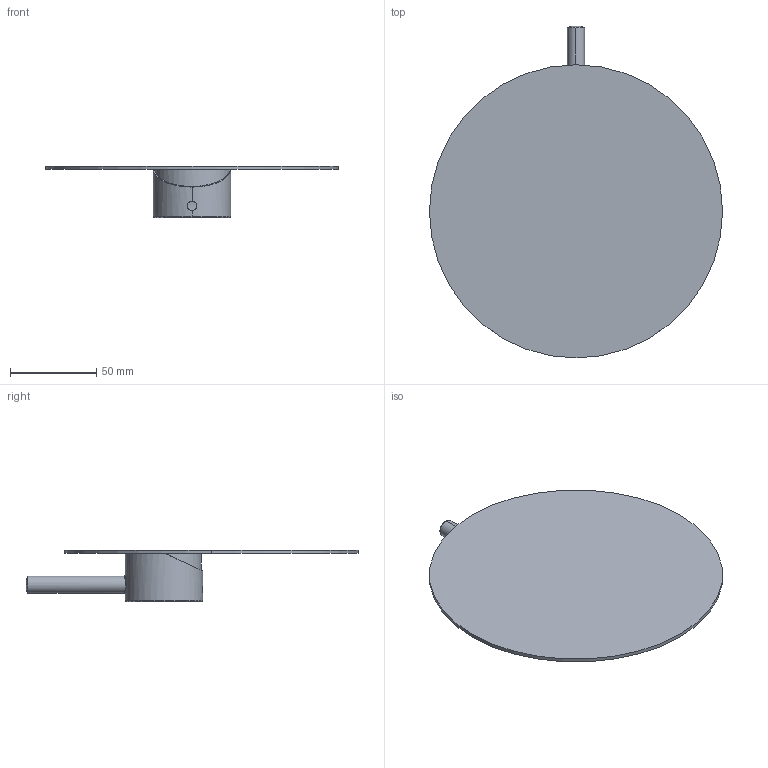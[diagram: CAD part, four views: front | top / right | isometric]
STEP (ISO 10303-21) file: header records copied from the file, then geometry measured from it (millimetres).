
FILE_DESCRIPTION (( 'STEP AP214' ), '1' );
FILE_NAME ('12218010 x architetti.STEP', '2024-11-13T16:17:56', ( '' ), ( '' ), 'SwSTEP 2.0', 'SolidWorks 2020', '' );
FILE_SCHEMA (( 'AUTOMOTIVE_DESIGN' ));
Length unit declared in the file: millimetre
Products named in the file (1): 12218010 x architetti
Bounding box: 170 x 192.5 x 30.14 mm (x, y, z)
Volume: 94042.2 mm3; surface area: 52224.4 mm2
Topology: 1 solids, 1 shells, 24 faces, 56 edges, 33 vertices
Faces by surface type: bspline 11, cylinder 10, plane 3
Entity records: 1614 total; most frequent: CARTESIAN_POINT 870, ORIENTED_EDGE 108, DIRECTION 86, EDGE_CURVE 54, AXIS2_PLACEMENT_3D 37, VERTEX_POINT 33, EDGE_LOOP 25, UNCERTAINTY_MEASURE_WITH_UNIT 25
